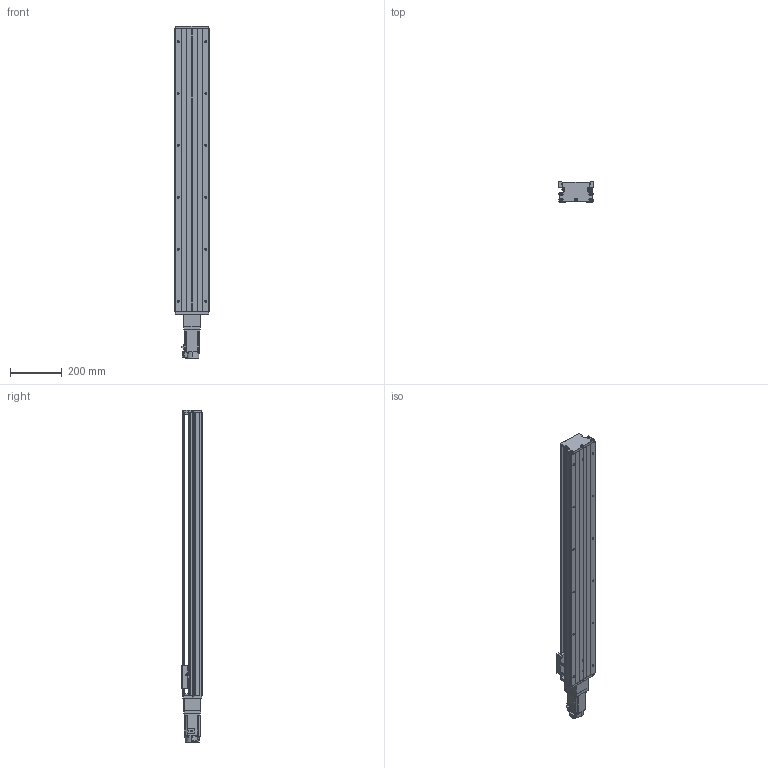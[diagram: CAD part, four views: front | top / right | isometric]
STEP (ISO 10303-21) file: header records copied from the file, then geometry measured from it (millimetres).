
FILE_DESCRIPTION (( 'STEP AP203' ), '1' );
FILE_NAME ('KTH130-950-BC-M40-C4.step', '2023-06-30T03:56:04', ( '微软用户' ), ( '微软中国' ), 'SwSTEP 2.0', 'SolidWorks 2020', '' );
FILE_SCHEMA (( 'CONFIG_CONTROL_DESIGN' ));
Length unit declared in the file: millimetre
Products named in the file (19): EE_SX911P_R; CTHA86-013; GBT70.1 M5℅16; CTHA60-016; CTHA86-027-1; GBT 70.2-M3¡Á5_M3¡Á6; GBT 70.1-M3℅5; HG-KN43J-S100; GTH14-001_950; GBT77-2000 M3×3; KTH130-950-BC-M40-C4; KTH130-002_KTH130-002; す晦芛蹟隊 M3℅5; KTH130-004; GBT 70.3-M3℅8; KTH130-005; CTHA60-017; CTHA86-006-1_M40; GB1155-6X6
Assembly tree (52 placements, depth 2):
  KTH130-950-BC-M40-C4
    GTH14-001_950
    KTH130-002_KTH130-002
    KTH130-004
    KTH130-005
    GB1155-6X6  x2
    GBT70.1 M5℅16  x10
    GBT 70.2-M3¡Á5_M3¡Á6  x4
    CTHA60-017  x3
    EE_SX911P_R  x3
    CTHA60-016  x2
    GBT 70.1-M3℅5  x6
    GBT77-2000 M3×3  x6
    す晦芛蹟隊 M3℅5  x2
    GBT 70.3-M3℅8  x6
    CTHA86-006-1_M40
    CTHA86-013
    CTHA86-027-1
    HG-KN43J-S100
Bounding box: 135 x 78 x 1278.7 mm (x, y, z)
Volume: 6514239.3 mm3; surface area: 981917.7 mm2
Topology: 55 solids, 55 shells, 2192 faces, 5302 edges, 3310 vertices
Faces by surface type: plane 1196, cylinder 608, cone 280, torus 96, sphere 12
Entity records: 40190 total; most frequent: CARTESIAN_POINT 8526, DIRECTION 5985, ORIENTED_EDGE 5888, EDGE_CURVE 2944, AXIS2_PLACEMENT_3D 2043, LINE 1899, VECTOR 1899, VERTEX_POINT 1882
